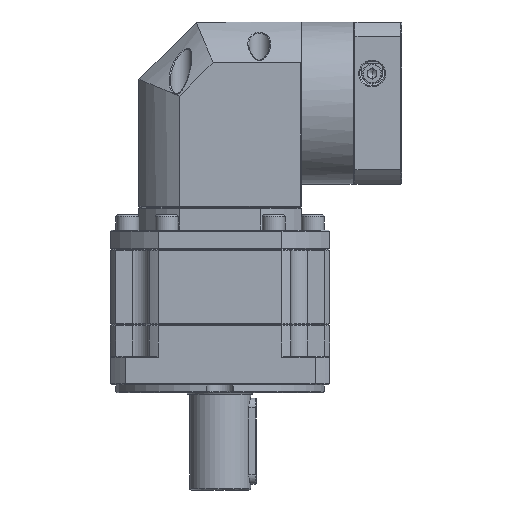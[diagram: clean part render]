
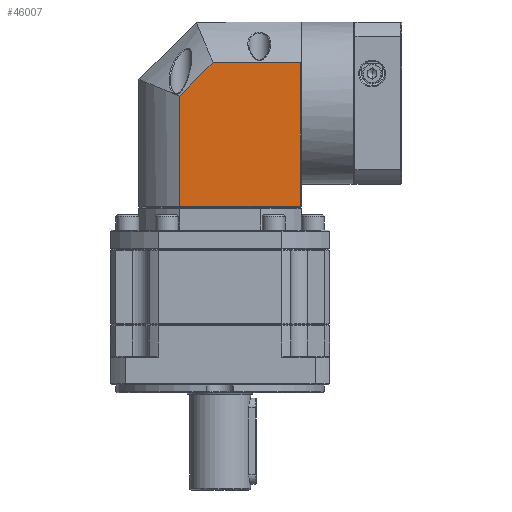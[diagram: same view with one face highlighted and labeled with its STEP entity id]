
A CAD part, front view. The second image highlights one B-rep face of the part: STEP entity #46007.
In plain terms, the highlighted planar face has unit normal (0, -1, 0).
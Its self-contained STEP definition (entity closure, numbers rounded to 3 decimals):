
#6193 = LINE ( 'NONE', #57121, #115154 ) ;
#6282 = DIRECTION ( 'NONE',  ( -1., 0., 0. ) ) ;
#14048 = EDGE_CURVE ( 'NONE', #147384, #126898, #6193, .T. ) ;
#16807 = CARTESIAN_POINT ( 'NONE',  ( 22.761, -18.692, 222.502 ) ) ;
#18131 = EDGE_CURVE ( 'NONE', #126898, #167883, #102154, .T. ) ;
#21651 = EDGE_LOOP ( 'NONE', ( #132740, #101031, #128332, #44315, #73684 ) ) ;
#24403 = VERTEX_POINT ( 'NONE', #16807 ) ;
#31766 = CARTESIAN_POINT ( 'NONE',  ( 22.761, -18.692, 319.002 ) ) ;
#34303 = AXIS2_PLACEMENT_3D ( 'NONE', #176422, #91447, #6282 ) ;
#34641 = LINE ( 'NONE', #109121, #59044 ) ;
#41279 = DIRECTION ( 'NONE',  ( 1., 0., 0. ) ) ;
#44315 = ORIENTED_EDGE ( 'NONE', *, *, #18131, .F. ) ;
#45237 = DIRECTION ( 'NONE',  ( 0.707, 0., 0.707 ) ) ;
#46007 = ADVANCED_FACE ( 'NONE', ( #48337 ), #119376, .F. ) ;
#48337 = FACE_OUTER_BOUND ( 'NONE', #21651, .T. ) ;
#49828 = CARTESIAN_POINT ( 'NONE',  ( -40.452, -18.692, 280.185 ) ) ;
#57121 = CARTESIAN_POINT ( 'NONE',  ( -40.452, -18.692, 319.002 ) ) ;
#59044 = VECTOR ( 'NONE', #66298, 1000. ) ;
#64095 = EDGE_CURVE ( 'NONE', #167883, #64494, #72221, .T. ) ;
#64494 = VERTEX_POINT ( 'NONE', #77861 ) ;
#65524 = EDGE_CURVE ( 'NONE', #64494, #24403, #93973, .T. ) ;
#66298 = DIRECTION ( 'NONE',  ( 1., 0., 0. ) ) ;
#72221 = LINE ( 'NONE', #156524, #181031 ) ;
#73684 = ORIENTED_EDGE ( 'NONE', *, *, #14048, .F. ) ;
#77861 = CARTESIAN_POINT ( 'NONE',  ( 22.761, -18.692, 297.715 ) ) ;
#80950 = CARTESIAN_POINT ( 'NONE',  ( -22.922, -18.692, 297.715 ) ) ;
#91447 = DIRECTION ( 'NONE',  ( 0., 1., 0. ) ) ;
#93973 = LINE ( 'NONE', #31766, #169478 ) ;
#97741 = VECTOR ( 'NONE', #45237, 1000. ) ;
#101031 = ORIENTED_EDGE ( 'NONE', *, *, #65524, .F. ) ;
#102154 = LINE ( 'NONE', #144562, #97741 ) ;
#109121 = CARTESIAN_POINT ( 'NONE',  ( 23.261, -18.692, 222.502 ) ) ;
#115154 = VECTOR ( 'NONE', #145314, 1000. ) ;
#119376 = PLANE ( 'NONE',  #34303 ) ;
#120392 = CARTESIAN_POINT ( 'NONE',  ( -40.452, -18.692, 222.502 ) ) ;
#126898 = VERTEX_POINT ( 'NONE', #49828 ) ;
#127527 = EDGE_CURVE ( 'NONE', #147384, #24403, #34641, .T. ) ;
#128332 = ORIENTED_EDGE ( 'NONE', *, *, #64095, .F. ) ;
#131022 = DIRECTION ( 'NONE',  ( 0., 0., -1. ) ) ;
#132740 = ORIENTED_EDGE ( 'NONE', *, *, #127527, .T. ) ;
#144562 = CARTESIAN_POINT ( 'NONE',  ( -40.452, -18.692, 280.185 ) ) ;
#145314 = DIRECTION ( 'NONE',  ( 0., 0., 1. ) ) ;
#147384 = VERTEX_POINT ( 'NONE', #120392 ) ;
#156524 = CARTESIAN_POINT ( 'NONE',  ( 23.261, -18.692, 297.715 ) ) ;
#167883 = VERTEX_POINT ( 'NONE', #80950 ) ;
#169478 = VECTOR ( 'NONE', #131022, 1000. ) ;
#176422 = CARTESIAN_POINT ( 'NONE',  ( 23.261, -18.692, 319.002 ) ) ;
#181031 = VECTOR ( 'NONE', #41279, 1000. ) ;
